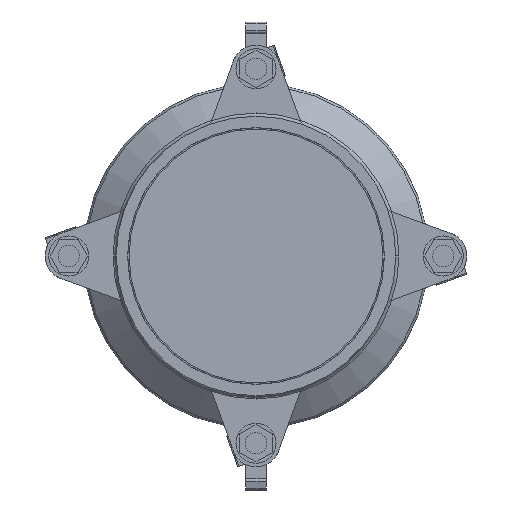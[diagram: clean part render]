
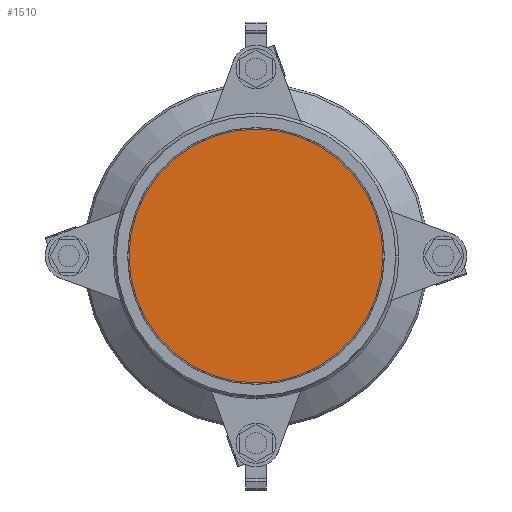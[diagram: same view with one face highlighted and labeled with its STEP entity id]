
A CAD part, left-side view. The second image highlights one B-rep face of the part: STEP entity #1510.
In plain terms, the highlighted planar face has unit normal (-1, 0, 0).
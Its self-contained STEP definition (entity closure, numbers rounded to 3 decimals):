
#1510=ADVANCED_FACE('',(#2743),#2744,.T.);
#2743=FACE_OUTER_BOUND('',#4027,.T.);
#2744=PLANE('',#4028);
#4027=EDGE_LOOP('',(#6791,#6792));
#4028=AXIS2_PLACEMENT_3D('',#6793,#6794,#6795);
#6791=ORIENTED_EDGE('',*,*,#7781,.T.);
#6792=ORIENTED_EDGE('',*,*,#7701,.T.);
#6793=CARTESIAN_POINT('',(102.0,0.0,0.));
#6794=DIRECTION('',(-1.0,0.0,0.));
#6795=DIRECTION('',(0.,0.0,-1.0));
#7701=EDGE_CURVE('',#9252,#9250,#9253,.T.);
#7781=EDGE_CURVE('',#9250,#9252,#9357,.T.);
#9250=VERTEX_POINT('',#11381);
#9252=VERTEX_POINT('',#11384);
#9253=CIRCLE('',#11385,107.0);
#9357=CIRCLE('',#11519,107.0);
#11381=CARTESIAN_POINT('',(102.0,0.0,-107.0));
#11384=CARTESIAN_POINT('',(102.0,0.,107.0));
#11385=AXIS2_PLACEMENT_3D('',#12793,#12794,#12795);
#11519=AXIS2_PLACEMENT_3D('',#12889,#12890,#12891);
#12793=CARTESIAN_POINT('',(102.0,0.0,0.));
#12794=DIRECTION('',(-1.0,0.0,0.));
#12795=DIRECTION('',(0.,0.0,-1.0));
#12889=CARTESIAN_POINT('',(102.0,0.0,0.));
#12890=DIRECTION('',(-1.0,0.0,0.));
#12891=DIRECTION('',(0.,0.0,-1.0));
